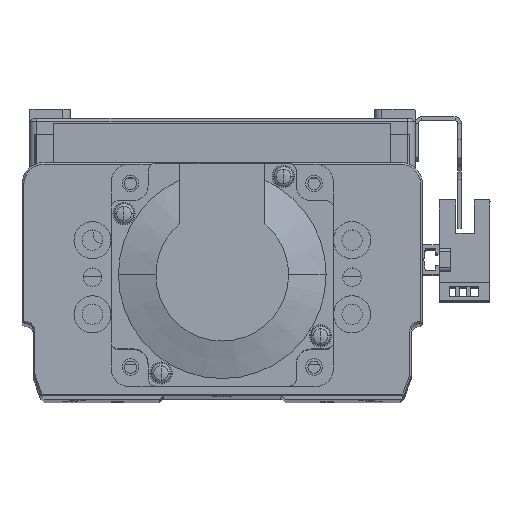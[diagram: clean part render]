
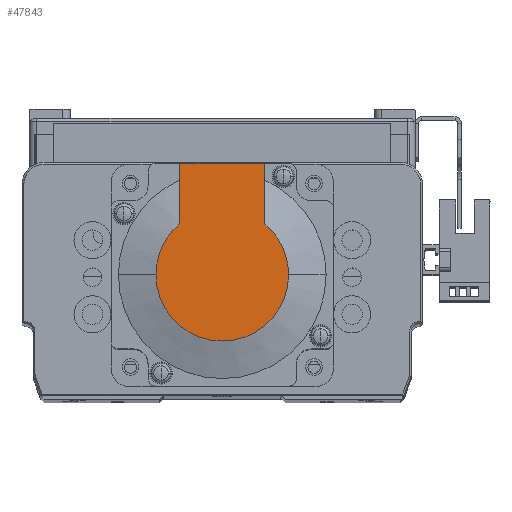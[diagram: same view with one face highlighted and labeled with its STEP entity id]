
A CAD part, top view. The second image highlights one B-rep face of the part: STEP entity #47843.
In plain terms, the highlighted planar face has unit normal (0, 0, 1) as drawn and (-1, 0, 0) by its records, which use the part's own axes.
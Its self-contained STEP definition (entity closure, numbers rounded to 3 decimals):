
#7436 = VERTEX_POINT ( 'NONE', #48166 ) ;
#7476 = VERTEX_POINT ( 'NONE', #48203 ) ;
#7546 = VERTEX_POINT ( 'NONE', #48273 ) ;
#7699 = VERTEX_POINT ( 'NONE', #48413 ) ;
#7795 = VERTEX_POINT ( 'NONE', #48554 ) ;
#7831 = VERTEX_POINT ( 'NONE', #48550 ) ;
#8784 = ORIENTED_EDGE ( 'NONE', *, *, #33122, .T. ) ;
#8802 = ORIENTED_EDGE ( 'NONE', *, *, #31983, .T. ) ;
#8806 = ORIENTED_EDGE ( 'NONE', *, *, #33134, .F. ) ;
#8808 = ORIENTED_EDGE ( 'NONE', *, *, #33147, .F. ) ;
#8866 = ORIENTED_EDGE ( 'NONE', *, *, #21428, .T. ) ;
#8868 = ORIENTED_EDGE ( 'NONE', *, *, #21433, .T. ) ;
#12010 = CIRCLE ( 'NONE', #45605, 17.881 ) ;
#12017 = CIRCLE ( 'NONE', #45608, 17.881 ) ;
#13851 = PLANE ( 'NONE',  #51095 ) ;
#13854 = DIRECTION ( 'NONE',  ( -1., 0., 0. ) ) ;
#13855 = DIRECTION ( 'NONE',  ( 0., 0., 1. ) ) ;
#13857 = CARTESIAN_POINT ( 'NONE',  ( -99., -8.941, 0. ) ) ;
#15872 = VECTOR ( 'NONE', #17749, 1000. ) ;
#15930 = LINE ( 'NONE', #17770, #15872 ) ;
#15996 = LINE ( 'NONE', #17742, #15998 ) ;
#15998 = VECTOR ( 'NONE', #17808, 1000. ) ;
#16000 = LINE ( 'NONE', #17795, #16050 ) ;
#16050 = VECTOR ( 'NONE', #17796, 1000. ) ;
#17742 = CARTESIAN_POINT ( 'NONE',  ( -99., 0., 11.45 ) ) ;
#17749 = DIRECTION ( 'NONE',  ( 0., -1., 0. ) ) ;
#17770 = CARTESIAN_POINT ( 'NONE',  ( -99., -8.941, -11.45 ) ) ;
#17795 = CARTESIAN_POINT ( 'NONE',  ( -99., 30., 25. ) ) ;
#17796 = DIRECTION ( 'NONE',  ( 0., 0., 1. ) ) ;
#17808 = DIRECTION ( 'NONE',  ( 0., -1., 0. ) ) ;
#21428 = EDGE_CURVE ( 'NONE', #7795, #7699, #12010, .T. ) ;
#21433 = EDGE_CURVE ( 'NONE', #7699, #7831, #12017, .T. ) ;
#26688 = CARTESIAN_POINT ( 'NONE',  ( -99., 0., 0. ) ) ;
#26705 = DIRECTION ( 'NONE',  ( -1., 0., 0. ) ) ;
#26708 = DIRECTION ( 'NONE',  ( 0., 0., -1. ) ) ;
#31491 = CARTESIAN_POINT ( 'NONE',  ( -99., 0., 0. ) ) ;
#31508 = DIRECTION ( 'NONE',  ( -1., 0., 0. ) ) ;
#31512 = DIRECTION ( 'NONE',  ( 0., 0., -1. ) ) ;
#31519 = DIRECTION ( 'NONE',  ( 0., 0., -1. ) ) ;
#31541 = CARTESIAN_POINT ( 'NONE',  ( -99., 0., 0. ) ) ;
#31547 = DIRECTION ( 'NONE',  ( -1., 0., 0. ) ) ;
#31983 = EDGE_CURVE ( 'NONE', #7436, #7795, #41946, .T. ) ;
#33122 = EDGE_CURVE ( 'NONE', #7476, #7436, #15930, .T. ) ;
#33134 = EDGE_CURVE ( 'NONE', #7546, #7831, #15996, .T. ) ;
#33147 = EDGE_CURVE ( 'NONE', #7476, #7546, #16000, .T. ) ;
#36568 = EDGE_LOOP ( 'NONE', ( #8784, #8802, #8866, #8868, #8806, #8808 ) ) ;
#41946 = CIRCLE ( 'NONE', #46545, 17.881 ) ;
#45605 = AXIS2_PLACEMENT_3D ( 'NONE', #31541, #31508, #31519 ) ;
#45608 = AXIS2_PLACEMENT_3D ( 'NONE', #31491, #31547, #31512 ) ;
#46545 = AXIS2_PLACEMENT_3D ( 'NONE', #26688, #26705, #26708 ) ;
#47843 = ADVANCED_FACE ( 'NONE', ( #52742 ), #13851, .T. ) ;
#48166 = CARTESIAN_POINT ( 'NONE',  ( -99., 13.735, -11.45 ) ) ;
#48203 = CARTESIAN_POINT ( 'NONE',  ( -99., 30., -11.45 ) ) ;
#48273 = CARTESIAN_POINT ( 'NONE',  ( -99., 30., 11.45 ) ) ;
#48413 = CARTESIAN_POINT ( 'NONE',  ( -99., 0., 17.881 ) ) ;
#48550 = CARTESIAN_POINT ( 'NONE',  ( -99., 13.735, 11.45 ) ) ;
#48554 = CARTESIAN_POINT ( 'NONE',  ( -99., 0., -17.881 ) ) ;
#51095 = AXIS2_PLACEMENT_3D ( 'NONE', #13857, #13854, #13855 ) ;
#52742 = FACE_OUTER_BOUND ( 'NONE', #36568, .T. ) ;
